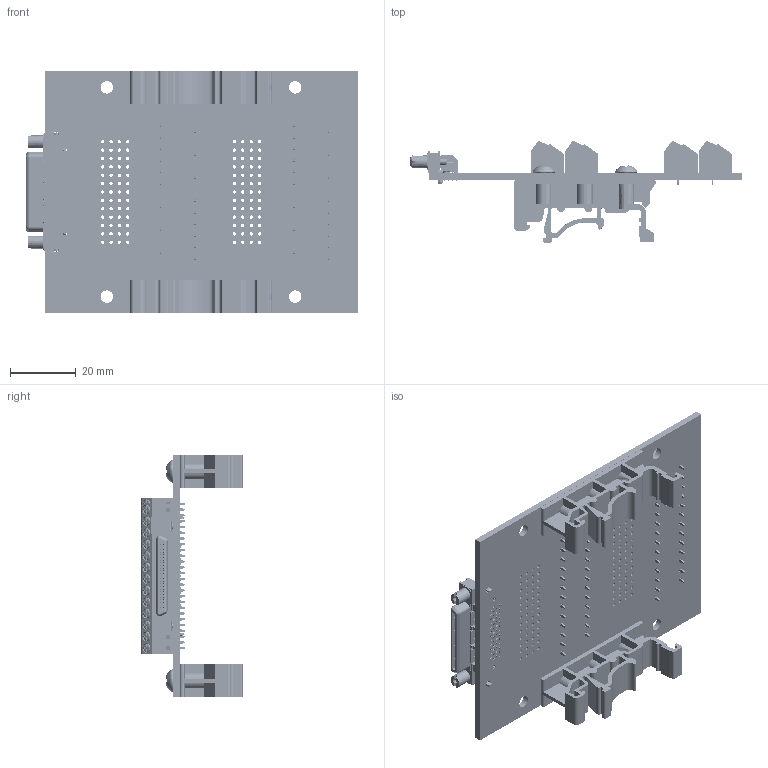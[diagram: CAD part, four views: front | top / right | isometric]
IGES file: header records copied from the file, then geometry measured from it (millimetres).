
Start section: SolidWorks IGES file using analytic representation for surfaces
Global section: file name: W:\end-user\products\brk\brkavh50fv1\3dmodel\rev_a\render\brkavh50fv1-r-din_rev_a.igs; native system: SolidWorks 2018; preprocessor: SolidWorks 2018; author: leviroy; date: 240208.113447; units: inch
Bounding box: 100.73 x 30.69 x 73.66 mm (x, y, z)
Surface area: 43282.3 mm2 (no closed solid volume)
Topology: 0 solids, 0 shells, 11315 faces, 97638 edges, 97617 vertices
Faces by surface type: bspline 9445, revolution 1870
